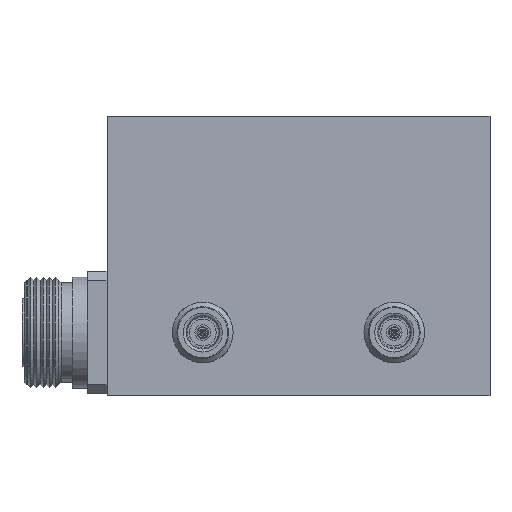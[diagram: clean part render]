
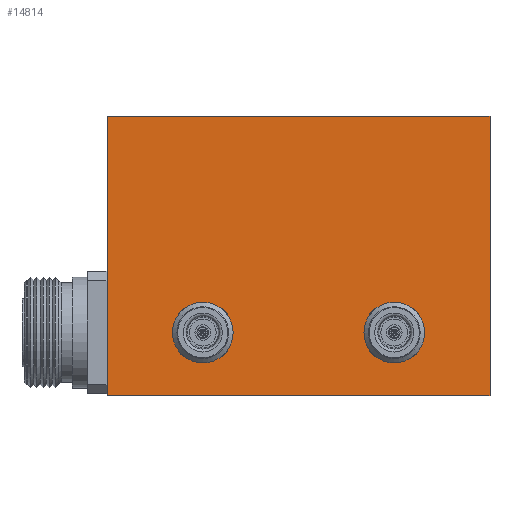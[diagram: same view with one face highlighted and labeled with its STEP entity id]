
A CAD part, front view. The second image highlights one B-rep face of the part: STEP entity #14814.
In plain terms, the highlighted planar face has unit normal (0, -1, 0).
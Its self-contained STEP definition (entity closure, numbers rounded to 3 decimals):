
#505=CIRCLE('',#15548,8.);
#506=CIRCLE('',#15549,8.);
#507=CIRCLE('',#15550,8.);
#508=CIRCLE('',#15551,8.);
#509=CIRCLE('',#15552,8.);
#510=CIRCLE('',#15553,8.);
#511=CIRCLE('',#15554,8.);
#512=CIRCLE('',#15555,8.);
#1542=ORIENTED_EDGE('',*,*,#4092,.F.);
#1543=ORIENTED_EDGE('',*,*,#4093,.F.);
#1544=ORIENTED_EDGE('',*,*,#4094,.F.);
#1545=ORIENTED_EDGE('',*,*,#4095,.T.);
#1546=ORIENTED_EDGE('',*,*,#4096,.F.);
#1547=ORIENTED_EDGE('',*,*,#4097,.T.);
#1548=ORIENTED_EDGE('',*,*,#4098,.F.);
#1549=ORIENTED_EDGE('',*,*,#4099,.F.);
#1550=ORIENTED_EDGE('',*,*,#4100,.T.);
#1551=ORIENTED_EDGE('',*,*,#4065,.T.);
#1552=ORIENTED_EDGE('',*,*,#4090,.F.);
#1553=ORIENTED_EDGE('',*,*,#4081,.T.);
#1554=ORIENTED_EDGE('',*,*,#4101,.F.);
#1555=ORIENTED_EDGE('',*,*,#4102,.F.);
#1556=ORIENTED_EDGE('',*,*,#4103,.F.);
#1557=ORIENTED_EDGE('',*,*,#4104,.T.);
#1558=ORIENTED_EDGE('',*,*,#4105,.F.);
#1559=ORIENTED_EDGE('',*,*,#4106,.T.);
#1560=ORIENTED_EDGE('',*,*,#4107,.F.);
#1561=ORIENTED_EDGE('',*,*,#4108,.F.);
#4065=EDGE_CURVE('',#5345,#5344,#6417,.T.);
#4081=EDGE_CURVE('',#5357,#5359,#6425,.T.);
#4090=EDGE_CURVE('',#5357,#5344,#6434,.T.);
#4092=EDGE_CURVE('',#5368,#5369,#505,.T.);
#4093=EDGE_CURVE('',#5370,#5368,#6436,.T.);
#4094=EDGE_CURVE('',#5371,#5370,#506,.T.);
#4095=EDGE_CURVE('',#5371,#5372,#6437,.T.);
#4096=EDGE_CURVE('',#5373,#5372,#507,.T.);
#4097=EDGE_CURVE('',#5373,#5374,#6438,.T.);
#4098=EDGE_CURVE('',#5375,#5374,#508,.T.);
#4099=EDGE_CURVE('',#5369,#5375,#6439,.T.);
#4100=EDGE_CURVE('',#5359,#5345,#6440,.T.);
#4101=EDGE_CURVE('',#5376,#5377,#509,.T.);
#4102=EDGE_CURVE('',#5378,#5376,#6441,.T.);
#4103=EDGE_CURVE('',#5379,#5378,#510,.T.);
#4104=EDGE_CURVE('',#5379,#5380,#6442,.T.);
#4105=EDGE_CURVE('',#5381,#5380,#511,.T.);
#4106=EDGE_CURVE('',#5381,#5382,#6443,.T.);
#4107=EDGE_CURVE('',#5383,#5382,#512,.T.);
#4108=EDGE_CURVE('',#5377,#5383,#6444,.T.);
#5344=VERTEX_POINT('',#20084);
#5345=VERTEX_POINT('',#20086);
#5357=VERTEX_POINT('',#20117);
#5359=VERTEX_POINT('',#20121);
#5368=VERTEX_POINT('',#20144);
#5369=VERTEX_POINT('',#20145);
#5370=VERTEX_POINT('',#20147);
#5371=VERTEX_POINT('',#20149);
#5372=VERTEX_POINT('',#20151);
#5373=VERTEX_POINT('',#20153);
#5374=VERTEX_POINT('',#20155);
#5375=VERTEX_POINT('',#20157);
#5376=VERTEX_POINT('',#20161);
#5377=VERTEX_POINT('',#20162);
#5378=VERTEX_POINT('',#20164);
#5379=VERTEX_POINT('',#20166);
#5380=VERTEX_POINT('',#20168);
#5381=VERTEX_POINT('',#20170);
#5382=VERTEX_POINT('',#20172);
#5383=VERTEX_POINT('',#20174);
#6417=LINE('',#20085,#7017);
#6425=LINE('',#20122,#7025);
#6434=LINE('',#20140,#7034);
#6436=LINE('',#20146,#7036);
#6437=LINE('',#20150,#7037);
#6438=LINE('',#20154,#7038);
#6439=LINE('',#20158,#7039);
#6440=LINE('',#20159,#7040);
#6441=LINE('',#20163,#7041);
#6442=LINE('',#20167,#7042);
#6443=LINE('',#20171,#7043);
#6444=LINE('',#20175,#7044);
#7017=VECTOR('',#17027,1000.);
#7025=VECTOR('',#17063,1000.);
#7034=VECTOR('',#17074,1000.);
#7036=VECTOR('',#17080,1000.);
#7037=VECTOR('',#17083,1000.);
#7038=VECTOR('',#17086,1000.);
#7039=VECTOR('',#17089,1000.);
#7040=VECTOR('',#17090,1000.);
#7041=VECTOR('',#17093,1000.);
#7042=VECTOR('',#17096,1000.);
#7043=VECTOR('',#17099,1000.);
#7044=VECTOR('',#17102,1000.);
#7482=EDGE_LOOP('',(#1542,#1543,#1544,#1545,#1546,#1547,#1548,#1549));
#7483=EDGE_LOOP('',(#1550,#1551,#1552,#1553));
#7484=EDGE_LOOP('',(#1554,#1555,#1556,#1557,#1558,#1559,#1560,#1561));
#8498=FACE_BOUND('',#7482,.T.);
#8499=FACE_BOUND('',#7483,.T.);
#8500=FACE_BOUND('',#7484,.T.);
#9521=PLANE('',#15547);
#14814=ADVANCED_FACE('',(#8498,#8499,#8500),#9521,.T.);
#15547=AXIS2_PLACEMENT_3D('',#20142,#17076,#17077);
#15548=AXIS2_PLACEMENT_3D('',#20143,#17078,#17079);
#15549=AXIS2_PLACEMENT_3D('',#20148,#17081,#17082);
#15550=AXIS2_PLACEMENT_3D('',#20152,#17084,#17085);
#15551=AXIS2_PLACEMENT_3D('',#20156,#17087,#17088);
#15552=AXIS2_PLACEMENT_3D('',#20160,#17091,#17092);
#15553=AXIS2_PLACEMENT_3D('',#20165,#17094,#17095);
#15554=AXIS2_PLACEMENT_3D('',#20169,#17097,#17098);
#15555=AXIS2_PLACEMENT_3D('',#20173,#17100,#17101);
#17027=DIRECTION('',(-1.,0.,0.));
#17063=DIRECTION('',(1.,0.,0.));
#17074=DIRECTION('',(0.,0.,1.));
#17076=DIRECTION('',(0.,-1.,0.));
#17077=DIRECTION('',(0.,0.,-1.));
#17078=DIRECTION('',(0.,-1.,0.));
#17079=DIRECTION('',(1.,0.,0.));
#17080=DIRECTION('',(1.,0.,0.));
#17081=DIRECTION('',(0.,-1.,0.));
#17082=DIRECTION('',(1.,0.,0.));
#17083=DIRECTION('',(0.,0.,1.));
#17084=DIRECTION('',(0.,-1.,0.));
#17085=DIRECTION('',(1.,0.,0.));
#17086=DIRECTION('',(1.,0.,0.));
#17087=DIRECTION('',(0.,-1.,0.));
#17088=DIRECTION('',(1.,0.,0.));
#17089=DIRECTION('',(0.,0.,1.));
#17090=DIRECTION('',(0.,0.,1.));
#17091=DIRECTION('',(0.,-1.,0.));
#17092=DIRECTION('',(-1.,0.,0.));
#17093=DIRECTION('',(-1.,0.,0.));
#17094=DIRECTION('',(0.,-1.,0.));
#17095=DIRECTION('',(-1.,0.,0.));
#17096=DIRECTION('',(0.,0.,-1.));
#17097=DIRECTION('',(0.,-1.,0.));
#17098=DIRECTION('',(-1.,0.,0.));
#17099=DIRECTION('',(-1.,0.,0.));
#17100=DIRECTION('',(0.,-1.,0.));
#17101=DIRECTION('',(-1.,0.,0.));
#17102=DIRECTION('',(0.,0.,-1.));
#20084=CARTESIAN_POINT('',(-50.,-100.,40.));
#20085=CARTESIAN_POINT('',(50.,-100.,40.));
#20086=CARTESIAN_POINT('',(50.,-100.,40.));
#20117=CARTESIAN_POINT('',(-50.,-100.,-33.));
#20121=CARTESIAN_POINT('',(50.,-100.,-33.));
#20122=CARTESIAN_POINT('',(-50.,-100.,-33.));
#20140=CARTESIAN_POINT('',(-50.,-100.,-33.));
#20142=CARTESIAN_POINT('',(-50.,-100.,-33.));
#20143=CARTESIAN_POINT('',(-25.,-100.,-16.5));
#20144=CARTESIAN_POINT('',(-20.134,-100.,-22.85));
#20145=CARTESIAN_POINT('',(-18.65,-100.,-21.366));
#20146=CARTESIAN_POINT('',(-31.35,-100.,-22.85));
#20147=CARTESIAN_POINT('',(-29.866,-100.,-22.85));
#20148=CARTESIAN_POINT('',(-25.,-100.,-16.5));
#20149=CARTESIAN_POINT('',(-31.35,-100.,-21.366));
#20150=CARTESIAN_POINT('',(-31.35,-100.,-22.85));
#20151=CARTESIAN_POINT('',(-31.35,-100.,-11.634));
#20152=CARTESIAN_POINT('',(-25.,-100.,-16.5));
#20153=CARTESIAN_POINT('',(-29.866,-100.,-10.15));
#20154=CARTESIAN_POINT('',(-31.35,-100.,-10.15));
#20155=CARTESIAN_POINT('',(-20.134,-100.,-10.15));
#20156=CARTESIAN_POINT('',(-25.,-100.,-16.5));
#20157=CARTESIAN_POINT('',(-18.65,-100.,-11.634));
#20158=CARTESIAN_POINT('',(-18.65,-100.,-22.85));
#20159=CARTESIAN_POINT('',(50.,-100.,-33.));
#20160=CARTESIAN_POINT('',(25.,-100.,-16.5));
#20161=CARTESIAN_POINT('',(20.134,-100.,-10.15));
#20162=CARTESIAN_POINT('',(18.65,-100.,-11.634));
#20163=CARTESIAN_POINT('',(31.35,-100.,-10.15));
#20164=CARTESIAN_POINT('',(29.866,-100.,-10.15));
#20165=CARTESIAN_POINT('',(25.,-100.,-16.5));
#20166=CARTESIAN_POINT('',(31.35,-100.,-11.634));
#20167=CARTESIAN_POINT('',(31.35,-100.,-10.15));
#20168=CARTESIAN_POINT('',(31.35,-100.,-21.366));
#20169=CARTESIAN_POINT('',(25.,-100.,-16.5));
#20170=CARTESIAN_POINT('',(29.866,-100.,-22.85));
#20171=CARTESIAN_POINT('',(31.35,-100.,-22.85));
#20172=CARTESIAN_POINT('',(20.134,-100.,-22.85));
#20173=CARTESIAN_POINT('',(25.,-100.,-16.5));
#20174=CARTESIAN_POINT('',(18.65,-100.,-21.366));
#20175=CARTESIAN_POINT('',(18.65,-100.,-10.15));
